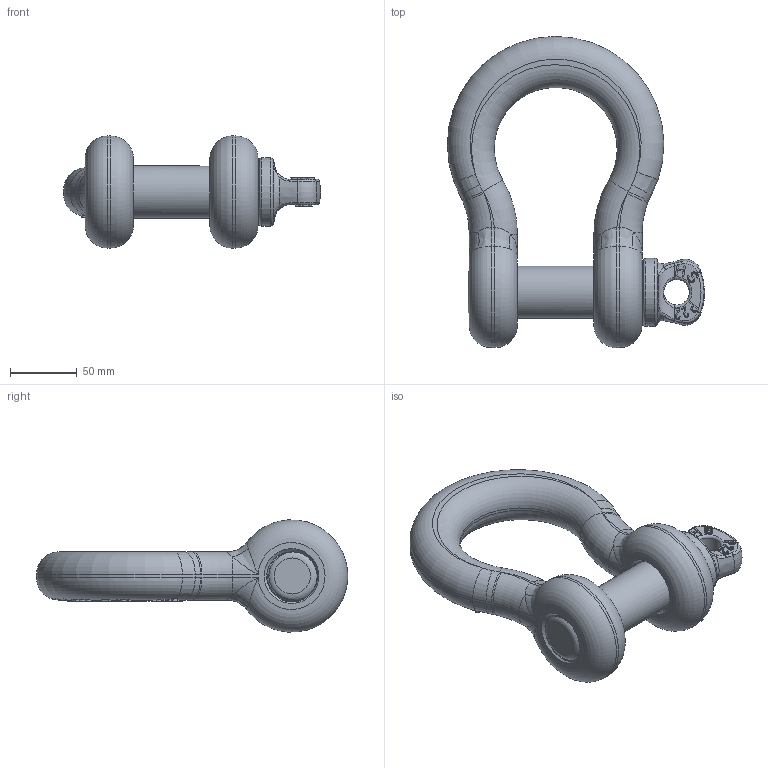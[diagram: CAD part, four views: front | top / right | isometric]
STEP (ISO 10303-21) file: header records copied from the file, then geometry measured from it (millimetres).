
FILE_DESCRIPTION(/* description */ (''),/* implementation_level */ '2;1');
FILE_NAME(/* name */ 'G-209A-1-3-8.stp',/* time_stamp */ '2025-04-08T08:19:34+08:00',/* author */ (''),/* organization */ (''),/* preprocessor_version */ 'ST-DEVELOPER v16',/* originating_system */ 'SIEMENS PLM Software NX 10.0',/* authorisation */ '');
FILE_SCHEMA (('AP203_CONFIGURATION_CONTROLLED_3D_DESIGN_OF_MECHANICAL_PARTS_AND_ASSEMBLIES_MIM_LF { 1 0 10303 403 2 1 2}'));
Length unit declared in the file: millimetre
Products named in the file (1): Admi20FC52B4dhpd
Bounding box: 192.5 x 232.89 x 83.92 mm (x, y, z)
Volume: 817241.1 mm3; surface area: 104936 mm2
Topology: 2 solids, 2 shells, 573 faces, 1585 edges, 1021 vertices
Faces by surface type: plane 233, extrusion 164, cylinder 70, bspline 61, torus 37, cone 7, sphere 1
Full cylindrical faces by diameter (mm): 19.1 x1, 39 x7, 41 x1, 51 x1
Entity records: 25359 total; most frequent: CARTESIAN_POINT 12644, ORIENTED_EDGE 3058, DIRECTION 1834, EDGE_CURVE 1529, VERTEX_POINT 996, B_SPLINE_CURVE_WITH_KNOTS 955, VECTOR 650, EDGE_LOOP 597
